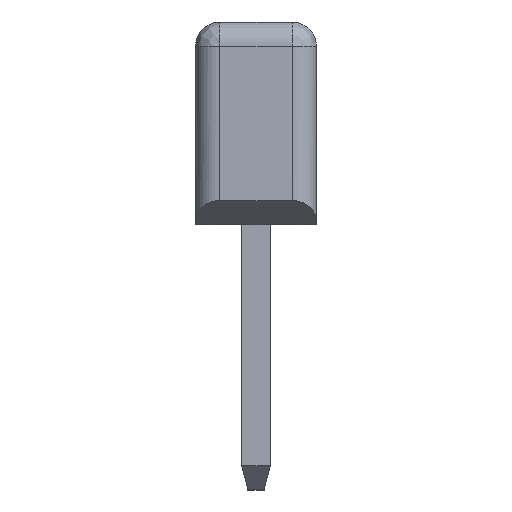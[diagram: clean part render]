
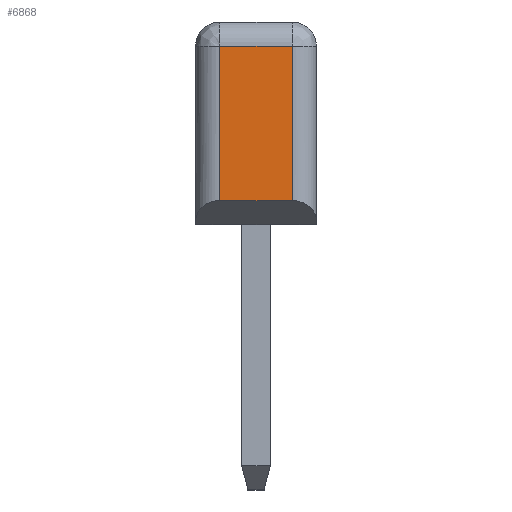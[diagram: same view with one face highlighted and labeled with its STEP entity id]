
A CAD part, left-side view. The second image highlights one B-rep face of the part: STEP entity #6868.
In plain terms, the highlighted planar face has unit normal (-1, 0, 0).
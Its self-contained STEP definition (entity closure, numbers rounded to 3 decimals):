
#223 = ORIENTED_EDGE ( 'NONE', *, *, #5105, .F. ) ;
#440 = DIRECTION ( 'NONE',  ( 0., 0., 1. ) ) ;
#480 = CARTESIAN_POINT ( 'NONE',  ( 0., 0.5, 9.7 ) ) ;
#831 = VERTEX_POINT ( 'NONE', #1641 ) ;
#844 = CARTESIAN_POINT ( 'NONE',  ( 0., 2., 9.2 ) ) ;
#1060 = LINE ( 'NONE', #3498, #1757 ) ;
#1409 = VECTOR ( 'NONE', #1411, 1000. ) ;
#1411 = DIRECTION ( 'NONE',  ( 0., 1., 0. ) ) ;
#1498 = EDGE_CURVE ( 'NONE', #5359, #831, #1060, .T. ) ;
#1641 = CARTESIAN_POINT ( 'NONE',  ( 0., 0.5, 6. ) ) ;
#1757 = VECTOR ( 'NONE', #5914, 1000. ) ;
#1875 = CARTESIAN_POINT ( 'NONE',  ( 0., 2., 6. ) ) ;
#1990 = AXIS2_PLACEMENT_3D ( 'NONE', #2271, #4654, #4614 ) ;
#2271 = CARTESIAN_POINT ( 'NONE',  ( 0., 2.5, 9.7 ) ) ;
#2368 = DIRECTION ( 'NONE',  ( 0., 0., 1. ) ) ;
#2605 = CARTESIAN_POINT ( 'NONE',  ( 0., 2.5, 9.2 ) ) ;
#2867 = FACE_OUTER_BOUND ( 'NONE', #3598, .T. ) ;
#2940 = VECTOR ( 'NONE', #440, 1000. ) ;
#3157 = VERTEX_POINT ( 'NONE', #3788 ) ;
#3498 = CARTESIAN_POINT ( 'NONE',  ( 0., 2.5, 6. ) ) ;
#3536 = LINE ( 'NONE', #7307, #7009 ) ;
#3598 = EDGE_LOOP ( 'NONE', ( #4353, #6376, #6739, #223 ) ) ;
#3788 = CARTESIAN_POINT ( 'NONE',  ( 0., 0.5, 9.2 ) ) ;
#4304 = LINE ( 'NONE', #2605, #1409 ) ;
#4353 = ORIENTED_EDGE ( 'NONE', *, *, #1498, .T. ) ;
#4614 = DIRECTION ( 'NONE',  ( 0., -1., 0. ) ) ;
#4654 = DIRECTION ( 'NONE',  ( -1., 0., 0. ) ) ;
#4721 = EDGE_CURVE ( 'NONE', #831, #3157, #7127, .T. ) ;
#5105 = EDGE_CURVE ( 'NONE', #5359, #6363, #3536, .T. ) ;
#5254 = PLANE ( 'NONE',  #1990 ) ;
#5359 = VERTEX_POINT ( 'NONE', #1875 ) ;
#5914 = DIRECTION ( 'NONE',  ( 0., -1., 0. ) ) ;
#6363 = VERTEX_POINT ( 'NONE', #844 ) ;
#6376 = ORIENTED_EDGE ( 'NONE', *, *, #4721, .T. ) ;
#6739 = ORIENTED_EDGE ( 'NONE', *, *, #7326, .T. ) ;
#6868 = ADVANCED_FACE ( 'NONE', ( #2867 ), #5254, .T. ) ;
#7009 = VECTOR ( 'NONE', #2368, 1000. ) ;
#7127 = LINE ( 'NONE', #480, #2940 ) ;
#7307 = CARTESIAN_POINT ( 'NONE',  ( 0., 2., 9.7 ) ) ;
#7326 = EDGE_CURVE ( 'NONE', #3157, #6363, #4304, .T. ) ;
